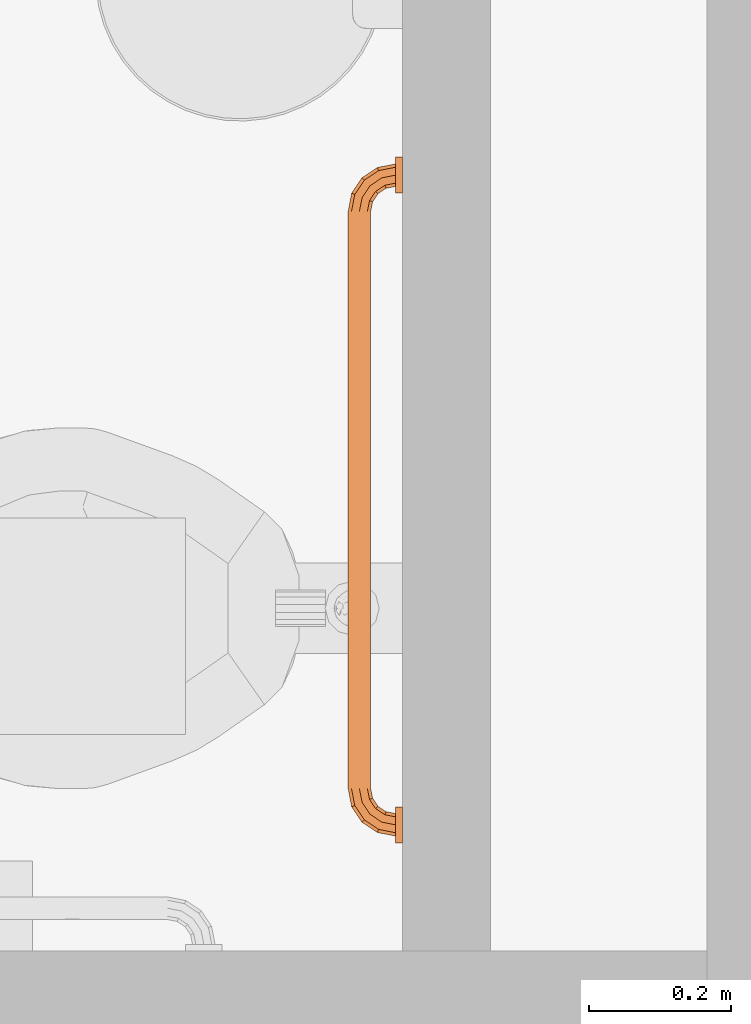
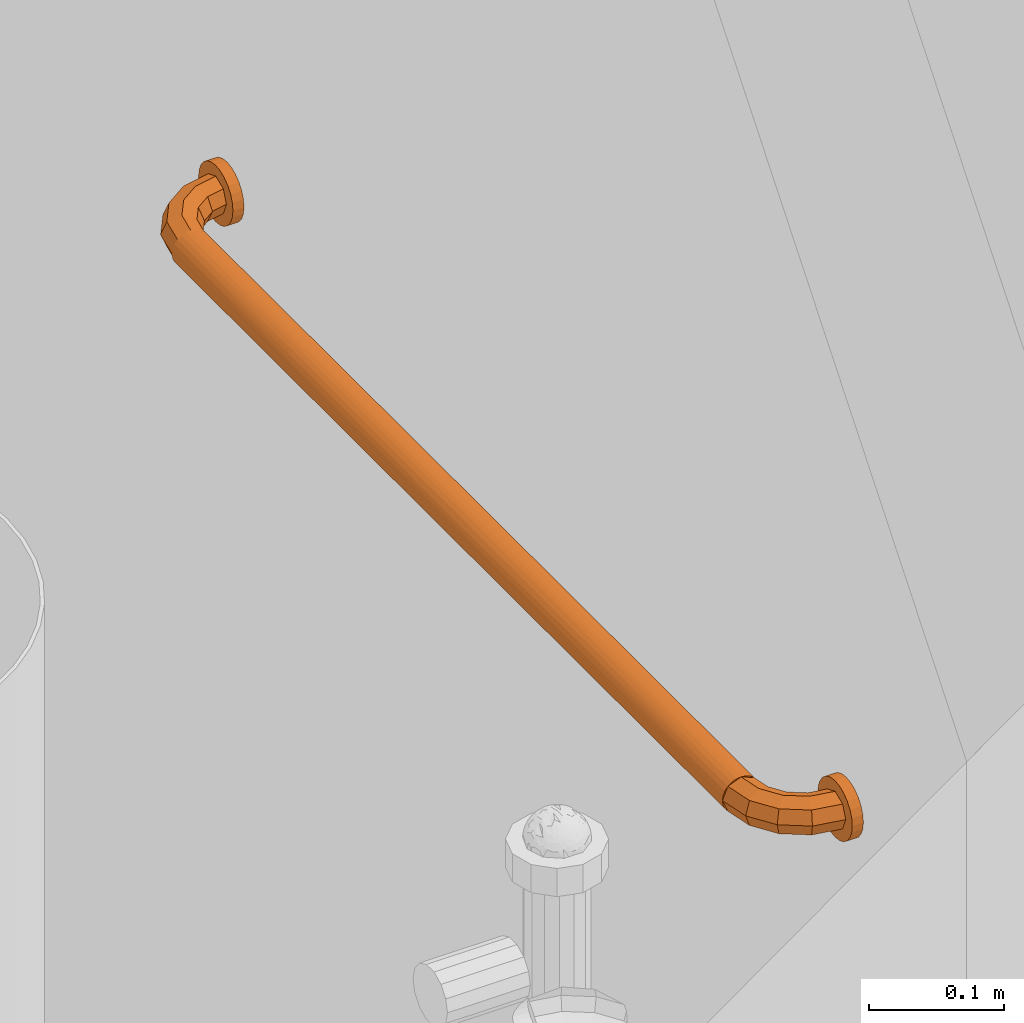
# One storey, part 7 of 7: 1 proxy.
"""IFC2X3 building model written with IfcOpenShell, lengths in feet."""

from ifc_helpers import new_model, entity, si_unit, converted_unit, derived_unit, direction, frame, origin, place, context, subcontext, project, spatial, faceted_brep, source, transform, mapped, type_object, type_shapes, element, save


model = new_model("IFC2X3")

# Units and contexts
model_context = context("Model", 3, precision=0.0001, world=origin(), true_north=direction((6.12303176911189e-17, 1.0)))
body_context = subcontext(model_context, "Body", "Model", "MODEL_VIEW")
ifc_project = project(units=[converted_unit("LENGTHUNIT", "FOOT", entity("IfcRatioMeasure", 0.3048), si_unit("LENGTHUNIT", "METRE"), dimensions=[1, 0, 0, 0, 0, 0, 0]), converted_unit("AREAUNIT", "SQUARE FOOT", entity("IfcRatioMeasure", 0.09290304), si_unit("AREAUNIT", "SQUARE_METRE"), dimensions=[2, 0, 0, 0, 0, 0, 0]), converted_unit("VOLUMEUNIT", "CUBIC FOOT", entity("IfcRatioMeasure", 0.028316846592), si_unit("VOLUMEUNIT", "CUBIC_METRE"), dimensions=[3, 0, 0, 0, 0, 0, 0]), converted_unit("PLANEANGLEUNIT", "DEGREE", entity("IfcRatioMeasure", 0.0174532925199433), si_unit("PLANEANGLEUNIT", "RADIAN"), dimensions=[0, 0, 0, 0, 0, 0, 0]), si_unit("MASSUNIT", "GRAM", prefix="KILO"), derived_unit("MASSDENSITYUNIT", [(si_unit("MASSUNIT", "GRAM", prefix="KILO"), 1), (si_unit("LENGTHUNIT", "METRE"), -3)]), si_unit("TIMEUNIT", "SECOND"), si_unit("FREQUENCYUNIT", "HERTZ"), si_unit("THERMODYNAMICTEMPERATUREUNIT", "DEGREE_CELSIUS"), derived_unit("THERMALTRANSMITTANCEUNIT", [(si_unit("MASSUNIT", "GRAM", prefix="KILO"), 1), (si_unit("THERMODYNAMICTEMPERATUREUNIT", "KELVIN"), -1), (si_unit("TIMEUNIT", "SECOND"), -3)]), derived_unit("VOLUMETRICFLOWRATEUNIT", [(si_unit("LENGTHUNIT", "METRE"), 3), (si_unit("TIMEUNIT", "SECOND"), -1)]), si_unit("ELECTRICCURRENTUNIT", "AMPERE"), si_unit("ELECTRICVOLTAGEUNIT", "VOLT"), si_unit("POWERUNIT", "WATT"), si_unit("FORCEUNIT", "NEWTON"), si_unit("ILLUMINANCEUNIT", "LUX"), si_unit("LUMINOUSFLUXUNIT", "LUMEN"), si_unit("LUMINOUSINTENSITYUNIT", "CANDELA"), derived_unit("USERDEFINED", [(si_unit("MASSUNIT", "GRAM", prefix="KILO"), -1), (si_unit("LENGTHUNIT", "METRE"), -2), (si_unit("TIMEUNIT", "SECOND"), 3), (si_unit("LUMINOUSFLUXUNIT", "LUMEN"), 1)]), derived_unit("LINEARVELOCITYUNIT", [(si_unit("LENGTHUNIT", "METRE"), 1), (si_unit("TIMEUNIT", "SECOND"), -1)]), si_unit("PRESSUREUNIT", "PASCAL"), derived_unit("USERDEFINED", [(si_unit("LENGTHUNIT", "METRE"), -2), (si_unit("MASSUNIT", "GRAM", prefix="KILO"), 1), (si_unit("TIMEUNIT", "SECOND"), -2)])], contexts=[model_context])

# Site, building, storey, space
site_placement = place(None, origin())
site = spatial("IfcSite", under=ifc_project, at=site_placement, Name="Default", CompositionType="ELEMENT")
building_placement = place(site_placement, origin())
building = spatial("IfcBuilding", under=site, at=building_placement, Name="OUTPATIENT / PACT CLINIC (Ch. 265)", CompositionType="ELEMENT")
storey_placement = place(building_placement, origin())
storey = spatial("IfcBuildingStorey", under=building, at=storey_placement, Name="DATUM", CompositionType="ELEMENT", Elevation=0.0)
space_placement = place(storey_placement, origin())
space = spatial("IfcSpace", under=storey, at=space_placement, Name="TNPG1", CompositionType="ELEMENT", InteriorOrExteriorSpace="INTERNAL")

# Proxy
building_element_proxy_type = type_object("IfcBuildingElementProxyType", Name="A5109 - Grab Bar, 1.25 in Dia, SS, 2 Wall, W-C Accessible_Improved", PredefinedType="NOTDEFINED")
shared_shape = source(origin(), body_context, "Body", "Brep", [
    faceted_brep([(0.897113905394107, -0.185229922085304, 0.0520833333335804), (0.883020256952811, -0.151204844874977, 0.0368284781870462), (0.833333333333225, -0.161088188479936, 0.0368284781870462), (0.8333333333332, -0.197916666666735, 0.0520833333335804), (0.877182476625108, -0.137111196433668, 0.0), (0.833333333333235, -0.145833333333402, 0.0), (0.883020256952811, -0.151204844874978, -0.0368284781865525), (0.833333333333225, -0.161088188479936, -0.0368284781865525), (0.897113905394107, -0.185229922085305, -0.0520833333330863), (0.8333333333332, -0.197916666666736, -0.0520833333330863), (0.911207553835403, -0.219254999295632, -0.036828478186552), (0.833333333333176, -0.234745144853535, -0.036828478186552), (0.917045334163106, -0.233348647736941, 0.0), (0.833333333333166, -0.250000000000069, 0.0), (0.911207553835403, -0.219254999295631, 0.0368284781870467), (0.833333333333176, -0.234745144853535, 0.0368284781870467), (0.951184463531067, -0.149101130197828, 0.0520833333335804), (0.925142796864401, -0.123059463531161, 0.0368284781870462), (0.914355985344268, -0.112272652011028, 0.0), (0.925142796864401, -0.123059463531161, -0.0368284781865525), (0.951184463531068, -0.149101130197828, -0.0520833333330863), (0.977226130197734, -0.175142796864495, -0.036828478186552), (0.988012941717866, -0.185929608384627, 0.0), (0.977226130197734, -0.175142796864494, 0.0368284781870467), (0.987313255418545, -0.0950305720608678, 0.0520833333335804), (0.953288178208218, -0.0809369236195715, 0.0368284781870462), (0.939194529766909, -0.0750991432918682, 0.0), (0.953288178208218, -0.0809369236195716, -0.0368284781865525), (0.987313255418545, -0.0950305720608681, -0.0520833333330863), (1.02133833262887, -0.109124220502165, -0.036828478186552), (1.03543198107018, -0.114962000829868, 0.0), (1.02133833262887, -0.109124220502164, 0.0368284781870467), (1.0, -0.0312499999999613, 0.0520833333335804), (0.963171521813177, -0.031249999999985, 0.0368284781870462), (0.947916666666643, -0.0312499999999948, 0.0), (0.963171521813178, -0.031249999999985, -0.0368284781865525), (1.0, -0.0312499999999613, -0.0520833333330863), (1.03682847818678, -0.0312499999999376, -0.036828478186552), (1.05208333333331, -0.0312499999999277, 0.0), (1.03682847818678, -0.0312499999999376, 0.0368284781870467)], [[[0, 1, 2, 3]], [[1, 4, 5, 2]], [[4, 6, 7, 5]], [[6, 8, 9, 7]], [[8, 10, 11, 9]], [[10, 12, 13, 11]], [[12, 14, 15, 13]], [[14, 0, 3, 15]], [[16, 17, 1, 0]], [[17, 18, 4, 1]], [[18, 19, 6, 4]], [[19, 20, 8, 6]], [[20, 21, 10, 8]], [[21, 22, 12, 10]], [[22, 23, 14, 12]], [[23, 16, 0, 14]], [[24, 25, 17, 16]], [[25, 26, 18, 17]], [[26, 27, 19, 18]], [[27, 28, 20, 19]], [[28, 29, 21, 20]], [[29, 30, 22, 21]], [[30, 31, 23, 22]], [[31, 24, 16, 23]], [[32, 33, 25, 24]], [[33, 34, 26, 25]], [[34, 35, 27, 26]], [[35, 36, 28, 27]], [[36, 37, 29, 28]], [[37, 38, 30, 29]], [[38, 39, 31, 30]], [[39, 32, 24, 31]], [[3, 2, 5, 7, 9, 11, 13, 15]], [[39, 38, 37, 36, 35, 34, 33, 32]]]),
    faceted_brep([(0.978431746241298, -0.0312499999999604, -0.0804938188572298), (1.0, -0.0312499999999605, -0.0833333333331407), (1.02156825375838, -0.0312499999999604, -0.0804938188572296), (1.04166666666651, -0.0312499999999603, -0.0721687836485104), (1.05892556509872, -0.0312499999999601, -0.0589255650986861), (1.07216878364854, -0.0312499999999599, -0.0416666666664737), (1.08049381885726, -0.0312499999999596, -0.0215682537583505), (1.08333333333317, -0.0312499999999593, 0.0), (1.08049381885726, -0.031249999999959, 0.0215682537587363), (1.07216878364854, -0.0312499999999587, 0.0416666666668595), (1.05892556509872, -0.0312499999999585, 0.0589255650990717), (1.04166666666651, -0.0312499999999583, 0.0721687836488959), (1.02156825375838, -0.0312499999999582, 0.080493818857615), (1.0, -0.0312499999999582, 0.083333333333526), (0.978431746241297, -0.0312499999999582, 0.080493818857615), (0.958333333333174, -0.0312499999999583, 0.0721687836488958), (0.941074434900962, -0.0312499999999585, 0.0589255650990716), (0.927831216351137, -0.0312499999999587, 0.0416666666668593), (0.919506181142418, -0.031249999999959, 0.021568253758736), (0.916666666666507, -0.0312499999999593, 0.0), (0.919506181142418, -0.0312499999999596, -0.0215682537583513), (0.927831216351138, -0.0312499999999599, -0.0416666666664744), (0.941074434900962, -0.0312499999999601, -0.0589255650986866), (0.958333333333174, -0.0312499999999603, -0.0721687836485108), (1.0, 0.0, 0.0833333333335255), (1.02156825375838, 0.0, 0.0804938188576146), (1.04166666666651, 0.0, 0.0721687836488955), (1.05892556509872, 0.0, 0.0589255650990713), (1.07216878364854, 0.0, 0.0416666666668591), (1.08049381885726, 0.0, 0.0215682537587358), (1.08333333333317, 0.0, 0.0), (1.08049381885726, 0.0, -0.0215682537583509), (1.07216878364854, 0.0, -0.0416666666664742), (1.05892556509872, 0.0, -0.0589255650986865), (1.04166666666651, 0.0, -0.0721687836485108), (1.02156825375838, 0.0, -0.0804938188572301), (1.0, 0.0, -0.0833333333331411), (0.978431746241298, 0.0, -0.0804938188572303), (0.958333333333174, 0.0, -0.0721687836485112), (0.941074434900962, 0.0, -0.0589255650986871), (0.927831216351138, 0.0, -0.0416666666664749), (0.919506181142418, 0.0, -0.0215682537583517), (0.916666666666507, 0.0, 0.0), (0.919506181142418, 0.0, 0.0215682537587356), (0.927831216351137, 0.0, 0.0416666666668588), (0.941074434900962, 0.0, 0.0589255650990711), (0.958333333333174, 0.0, 0.0721687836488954), (0.978431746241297, 0.0, 0.0804938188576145)], [[[0, 1, 2, 3, 4, 5, 6, 7, 8, 9, 10, 11, 12, 13, 14, 15, 16, 17, 18, 19, 20, 21, 22, 23]], [[24, 25, 26, 27, 28, 29, 30, 31, 32, 33, 34, 35, 36, 37, 38, 39, 40, 41, 42, 43, 44, 45, 46, 47]], [[30, 7, 6, 31]], [[31, 6, 5, 32]], [[34, 33, 4, 3]], [[4, 33, 32, 5]], [[35, 34, 3, 2]], [[35, 2, 1, 36]], [[36, 1, 0, 37]], [[37, 0, 23, 38]], [[40, 39, 22, 21]], [[22, 39, 38, 23]], [[41, 40, 21, 20]], [[41, 20, 19, 42]], [[42, 19, 18, 43]], [[43, 18, 17, 44]], [[46, 45, 16, 15]], [[16, 45, 44, 17]], [[47, 46, 15, 14]], [[47, 14, 13, 24]], [[24, 13, 12, 25]], [[25, 12, 11, 26]], [[28, 27, 10, 9]], [[10, 27, 26, 11]], [[29, 28, 9, 8]], [[29, 8, 7, 30]]]),
    faceted_brep([(-1.9873132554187, -0.0950305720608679, 0.052083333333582), (-1.95328817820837, -0.0809369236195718, 0.0368284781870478), (-1.96317152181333, -0.0312499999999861, 0.0368284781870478), (-2.0, -0.0312499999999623, 0.052083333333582), (-1.93919452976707, -0.0750991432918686, 0.0), (-1.9479166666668, -0.0312499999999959, 0.0), (-1.95328817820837, -0.0809369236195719, -0.0368284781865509), (-1.96317152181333, -0.0312499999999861, -0.0368284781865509), (-1.9873132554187, -0.0950305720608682, -0.0520833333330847), (-2.0, -0.0312499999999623, -0.0520833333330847), (-2.02133833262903, -0.109124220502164, -0.0368284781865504), (-2.03682847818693, -0.0312499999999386, -0.0368284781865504), (-2.03543198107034, -0.114962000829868, 0.0), (-2.05208333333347, -0.0312499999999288, 0.0), (-2.02133833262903, -0.109124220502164, 0.0368284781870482), (-2.03682847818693, -0.0312499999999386, 0.0368284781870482), (-1.95118446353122, -0.149101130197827, 0.052083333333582), (-1.92514279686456, -0.123059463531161, 0.0368284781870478), (-1.91435598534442, -0.112272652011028, 0.0), (-1.92514279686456, -0.123059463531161, -0.0368284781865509), (-1.95118446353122, -0.149101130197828, -0.0520833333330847), (-1.97722613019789, -0.175142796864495, -0.0368284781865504), (-1.98801294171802, -0.185929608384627, 0.0), (-1.97722613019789, -0.175142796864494, 0.0368284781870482), (-1.89711390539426, -0.185229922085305, 0.052083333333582), (-1.88302025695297, -0.151204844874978, 0.0368284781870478), (-1.87718247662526, -0.137111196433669, 0.0), (-1.88302025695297, -0.151204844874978, -0.0368284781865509), (-1.89711390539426, -0.185229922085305, -0.0520833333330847), (-1.91120755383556, -0.219254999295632, -0.0368284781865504), (-1.91704533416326, -0.233348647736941, 0.0), (-1.91120755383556, -0.219254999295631, 0.0368284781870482), (-1.83333333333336, -0.197916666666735, 0.052083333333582), (-1.83333333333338, -0.161088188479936, 0.0368284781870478), (-1.83333333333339, -0.145833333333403, 0.0), (-1.83333333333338, -0.161088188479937, -0.0368284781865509), (-1.83333333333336, -0.197916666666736, -0.0520833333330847), (-1.83333333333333, -0.234745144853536, -0.0368284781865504), (-1.83333333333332, -0.250000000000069, 0.0), (-1.83333333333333, -0.234745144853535, 0.0368284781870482)], [[[0, 1, 2, 3]], [[1, 4, 5, 2]], [[4, 6, 7, 5]], [[6, 8, 9, 7]], [[8, 10, 11, 9]], [[10, 12, 13, 11]], [[12, 14, 15, 13]], [[14, 0, 3, 15]], [[16, 17, 1, 0]], [[17, 18, 4, 1]], [[18, 19, 6, 4]], [[19, 20, 8, 6]], [[20, 21, 10, 8]], [[21, 22, 12, 10]], [[22, 23, 14, 12]], [[23, 16, 0, 14]], [[24, 25, 17, 16]], [[25, 26, 18, 17]], [[26, 27, 19, 18]], [[27, 28, 20, 19]], [[28, 29, 21, 20]], [[29, 30, 22, 21]], [[30, 31, 23, 22]], [[31, 24, 16, 23]], [[32, 33, 25, 24]], [[33, 34, 26, 25]], [[34, 35, 27, 26]], [[35, 36, 28, 27]], [[36, 37, 29, 28]], [[37, 38, 30, 29]], [[38, 39, 31, 30]], [[39, 32, 24, 31]], [[3, 2, 5, 7, 9, 11, 13, 15]], [[39, 38, 37, 36, 35, 34, 33, 32]]]),
    faceted_brep([(-1.95833333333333, -0.0312499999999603, -0.0721687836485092), (-1.94107443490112, -0.0312499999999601, -0.058925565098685), (-1.92783121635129, -0.0312499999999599, -0.0416666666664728), (-1.91950618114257, -0.0312499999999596, -0.0215682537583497), (-1.91666666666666, -0.0312499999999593, 0.0), (-1.91950618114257, -0.031249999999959, 0.0215682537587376), (-1.92783121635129, -0.0312499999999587, 0.0416666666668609), (-1.94107443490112, -0.0312499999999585, 0.0589255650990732), (-1.95833333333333, -0.0312499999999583, 0.0721687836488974), (-1.97843174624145, -0.0312499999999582, 0.0804938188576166), (-2.0, -0.0312499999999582, 0.0833333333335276), (-2.02156825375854, -0.0312499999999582, 0.0804938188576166), (-2.04166666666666, -0.0312499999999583, 0.0721687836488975), (-2.05892556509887, -0.0312499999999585, 0.0589255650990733), (-2.0721687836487, -0.0312499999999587, 0.0416666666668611), (-2.08049381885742, -0.031249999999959, 0.0215682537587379), (-2.08333333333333, -0.0312499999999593, 0.0), (-2.08049381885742, -0.0312499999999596, -0.0215682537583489), (-2.0721687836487, -0.0312499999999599, -0.0416666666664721), (-2.05892556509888, -0.0312499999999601, -0.0589255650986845), (-2.04166666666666, -0.0312499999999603, -0.0721687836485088), (-2.02156825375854, -0.0312499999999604, -0.080493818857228), (-2.0, -0.0312499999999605, -0.0833333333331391), (-1.97843174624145, -0.0312499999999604, -0.0804938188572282), (-1.97843174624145, 0.0, 0.0804938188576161), (-1.95833333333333, 0.0, 0.072168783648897), (-1.94107443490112, 0.0, 0.0589255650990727), (-1.92783121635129, 0.0, 0.0416666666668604), (-1.91950618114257, 0.0, 0.0215682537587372), (-1.91666666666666, 0.0, 0.0), (-1.91950618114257, 0.0, -0.0215682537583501), (-1.92783121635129, 0.0, -0.0416666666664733), (-1.94107443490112, 0.0, -0.0589255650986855), (-1.95833333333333, 0.0, -0.0721687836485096), (-1.97843174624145, 0.0, -0.0804938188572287), (-2.0, 0.0, -0.0833333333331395), (-2.02156825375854, 0.0, -0.0804938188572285), (-2.04166666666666, 0.0, -0.0721687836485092), (-2.05892556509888, 0.0, -0.0589255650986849), (-2.0721687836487, 0.0, -0.0416666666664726), (-2.08049381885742, 0.0, -0.0215682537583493), (-2.08333333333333, 0.0, 0.0), (-2.08049381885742, 0.0, 0.0215682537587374), (-2.0721687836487, 0.0, 0.0416666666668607), (-2.05892556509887, 0.0, 0.0589255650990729), (-2.04166666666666, 0.0, 0.0721687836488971), (-2.02156825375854, 0.0, 0.0804938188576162), (-2.0, 0.0, 0.0833333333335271)], [[[0, 1, 2, 3, 4, 5, 6, 7, 8, 9, 10, 11, 12, 13, 14, 15, 16, 17, 18, 19, 20, 21, 22, 23]], [[24, 25, 26, 27, 28, 29, 30, 31, 32, 33, 34, 35, 36, 37, 38, 39, 40, 41, 42, 43, 44, 45, 46, 47]], [[40, 17, 16, 41]], [[39, 18, 17, 40]], [[20, 19, 38, 37]], [[39, 38, 19, 18]], [[21, 20, 37, 36]], [[22, 21, 36, 35]], [[34, 23, 22, 35]], [[33, 0, 23, 34]], [[2, 1, 32, 31]], [[33, 32, 1, 0]], [[3, 2, 31, 30]], [[4, 3, 30, 29]], [[28, 5, 4, 29]], [[27, 6, 5, 28]], [[8, 7, 26, 25]], [[27, 26, 7, 6]], [[9, 8, 25, 24]], [[10, 9, 24, 47]], [[46, 11, 10, 47]], [[45, 12, 11, 46]], [[14, 13, 44, 43]], [[45, 44, 13, 12]], [[15, 14, 43, 42]], [[16, 15, 42, 41]]]),
    faceted_brep([(0.833333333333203, -0.147608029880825, 0.0134801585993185), (0.833333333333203, -0.152811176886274, 0.0260416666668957), (0.833333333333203, -0.161088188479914, 0.0368284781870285), (0.833333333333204, -0.171875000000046, 0.0451054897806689), (0.833333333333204, -0.184436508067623, 0.0503086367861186), (0.833333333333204, -0.197916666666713, 0.0520833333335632), (0.833333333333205, -0.211396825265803, 0.050308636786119), (0.833333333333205, -0.22395833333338, 0.0451054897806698), (0.833333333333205, -0.234745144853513, 0.0368284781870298), (0.833333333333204, -0.243022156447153, 0.0260416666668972), (0.833333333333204, -0.248225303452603, 0.0134801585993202), (0.833333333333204, -0.250000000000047, 0.0), (0.833333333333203, -0.248225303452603, -0.013480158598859), (0.833333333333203, -0.243022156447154, -0.0260416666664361), (0.833333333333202, -0.234745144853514, -0.0368284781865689), (0.833333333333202, -0.223958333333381, -0.0451054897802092), (0.833333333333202, -0.211396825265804, -0.0503086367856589), (0.833333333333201, -0.197916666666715, -0.0520833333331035), (0.833333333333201, -0.184436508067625, -0.0503086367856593), (0.833333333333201, -0.171875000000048, -0.0451054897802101), (0.833333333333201, -0.161088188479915, -0.0368284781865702), (0.833333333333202, -0.152811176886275, -0.0260416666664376), (0.833333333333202, -0.147608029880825, -0.0134801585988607), (0.833333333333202, -0.14583333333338, 0.0), (-1.83333333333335, -0.248225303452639, 0.0134801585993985), (-1.83333333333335, -0.24302215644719, 0.0260416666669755), (-1.83333333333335, -0.23474514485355, 0.036828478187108), (-1.83333333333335, -0.223958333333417, 0.0451054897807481), (-1.83333333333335, -0.21139682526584, 0.0503086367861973), (-1.83333333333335, -0.19791666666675, 0.0520833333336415), (-1.83333333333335, -0.18443650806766, 0.0503086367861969), (-1.83333333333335, -0.171875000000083, 0.0451054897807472), (-1.83333333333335, -0.161088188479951, 0.0368284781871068), (-1.83333333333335, -0.152811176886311, 0.026041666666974), (-1.83333333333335, -0.147608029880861, 0.0134801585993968), (-1.83333333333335, -0.145833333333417, 0.0), (-1.83333333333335, -0.147608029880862, -0.0134801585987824), (-1.83333333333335, -0.152811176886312, -0.0260416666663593), (-1.83333333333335, -0.161088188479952, -0.0368284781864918), (-1.83333333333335, -0.171875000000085, -0.0451054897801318), (-1.83333333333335, -0.184436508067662, -0.050308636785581), (-1.83333333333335, -0.197916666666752, -0.0520833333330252), (-1.83333333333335, -0.211396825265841, -0.0503086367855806), (-1.83333333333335, -0.223958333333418, -0.0451054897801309), (-1.83333333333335, -0.234745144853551, -0.0368284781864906), (-1.83333333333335, -0.243022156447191, -0.0260416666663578), (-1.83333333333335, -0.24822530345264, -0.0134801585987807), (-1.83333333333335, -0.250000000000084, 0.0), (0.213018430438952, -0.166210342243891, 0.0413204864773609), (0.027611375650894, -0.177985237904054, 0.0481187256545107), (0.223932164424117, -0.149797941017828, 0.0199314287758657), (0.0276113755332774, -0.156596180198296, 0.0317063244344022), (-0.500000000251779, -0.154851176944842, -0.0292922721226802), (-1.2130184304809, -0.14979794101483, -0.0199314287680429), (-0.500000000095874, -0.149797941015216, -0.0199314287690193), (0.213018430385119, -0.14979794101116, -0.0199314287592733), (0.21301843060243, -0.166210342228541, -0.0413204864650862), (0.0276113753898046, -0.177985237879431, -0.0481187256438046), (0.273230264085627, -0.187922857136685, -0.0511155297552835), (-0.38666469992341, -0.187504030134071, -0.0510318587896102), (-1.21301843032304, -0.166210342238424, -0.0413204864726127), (-1.02761137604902, -0.156596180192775, -0.0317063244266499), (-0.49999999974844, -0.166210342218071, -0.0413204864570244), (0.027611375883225, -0.15659618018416, -0.0317063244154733), (-1.02761137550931, -0.146278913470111, -0.00679823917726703), (-0.500000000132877, -0.146752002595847, -0.00973913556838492), (-1.02761137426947, -0.177985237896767, -0.0481187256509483), (-0.499999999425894, -0.177964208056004, -0.0481100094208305), (-1.02761137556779, -0.156596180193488, 0.0317063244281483), (-0.00759092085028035, -0.197916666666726, -0.0520833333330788), (-0.992407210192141, -0.197916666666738, 0.0520833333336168), (-1.27323026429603, -0.18792285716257, 0.0511155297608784), (0.200359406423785, -0.146278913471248, 0.00679823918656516), (0.0276113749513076, -0.146278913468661, -0.00679823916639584), (-0.49999999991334, -0.154851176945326, 0.0292922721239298), (-0.500000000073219, -0.149797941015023, 0.0199314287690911), (-1.22393216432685, -0.149797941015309, 0.0199314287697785), (-1.20035940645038, -0.146278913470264, 0.00679823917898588), (-1.21301843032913, -0.166210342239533, 0.041320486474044), (-1.02761137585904, -0.177985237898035, 0.0481187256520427), (-0.499999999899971, -0.166210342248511, 0.0413204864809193), (-0.50000000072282, -0.145915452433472, 0.00292358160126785), (0.264201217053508, -0.188316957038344, 0.051191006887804), (-1.26420121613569, -0.188316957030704, -0.0511910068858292), (-0.50000000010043, -0.177964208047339, 0.0481100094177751), (-0.613335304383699, -0.187504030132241, 0.0510318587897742), (-0.0795375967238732, -0.197916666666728, -0.0520833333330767), (-0.920460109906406, -0.197916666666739, -0.052083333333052), (-0.920474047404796, -0.197916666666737, 0.0520833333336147), (-0.0795369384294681, -0.197916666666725, 0.05208333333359), (-0.992408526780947, -0.19791666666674, -0.0520833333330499), (-0.00758275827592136, -0.197916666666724, 0.0520833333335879), (0.213018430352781, -0.229622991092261, -0.0413204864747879), (0.0276113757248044, -0.217848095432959, -0.0481187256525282), (0.223932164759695, -0.24603539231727, -0.0199314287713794), (0.0276113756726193, -0.239237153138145, -0.0317063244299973), (-0.50000000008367, -0.240982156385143, 0.0292922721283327), (-1.21301843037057, -0.246035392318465, 0.0199314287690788), (-0.500000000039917, -0.246035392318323, 0.0199314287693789), (0.213018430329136, -0.246035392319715, 0.0199314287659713), (0.213018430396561, -0.229622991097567, 0.0413204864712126), (0.0276113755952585, -0.217848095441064, 0.0481187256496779), (0.273230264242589, -0.207910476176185, 0.0511155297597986), (-0.386664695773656, -0.208329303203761, 0.0510318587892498), (-1.21301843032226, -0.229622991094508, 0.0413204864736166), (-1.02761137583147, -0.239237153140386, 0.0317063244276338), (-0.49999999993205, -0.229622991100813, 0.0413204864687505), (0.0276113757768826, -0.239237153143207, 0.0317063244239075), (-1.02761137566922, -0.249554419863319, 0.00679823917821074), (-0.500000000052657, -0.249081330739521, 0.00973913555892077), (-1.02761137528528, -0.217848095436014, 0.0481187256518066), (-0.499999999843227, -0.217869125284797, 0.0481100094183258), (-1.0276113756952, -0.239237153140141, -0.0317063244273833), (-1.27323026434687, -0.207910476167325, -0.0511155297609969), (0.200359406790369, -0.249554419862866, -0.0067982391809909), (0.0276113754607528, -0.249554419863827, 0.00679823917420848), (-0.499999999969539, -0.240982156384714, -0.0292922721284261), (-0.500000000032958, -0.246035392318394, -0.0199314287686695), (-1.22393216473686, -0.246035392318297, -0.0199314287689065), (-1.20035940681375, -0.249554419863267, -0.00679823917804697), (-1.21301843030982, -0.229622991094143, -0.0413204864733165), (-1.02761137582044, -0.217848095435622, -0.0481187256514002), (-0.499999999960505, -0.229622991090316, -0.041320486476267), (-0.500000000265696, -0.249917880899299, -0.00292358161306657), (0.264201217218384, -0.207516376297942, -0.0511910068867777), (-1.26420121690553, -0.207516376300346, 0.0511910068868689), (-0.500000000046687, -0.217869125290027, -0.048110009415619), (-0.613335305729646, -0.20832930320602, -0.0510318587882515)], [[[0, 1, 2, 3, 4, 5, 6, 7, 8, 9, 10, 11, 12, 13, 14, 15, 16, 17, 18, 19, 20, 21, 22, 23]], [[24, 25, 26, 27, 28, 29, 30, 31, 32, 33, 34, 35, 36, 37, 38, 39, 40, 41, 42, 43, 44, 45, 46, 47]], [[48, 49, 3]], [[50, 51, 1]], [[52, 53, 54, 55]], [[56, 20, 19]], [[53, 37, 36]], [[57, 58, 59]], [[18, 58, 57]], [[60, 61, 62]], [[63, 56, 62]], [[53, 61, 37]], [[64, 65, 53]], [[66, 40, 39]], [[36, 35, 64]], [[66, 67, 59]], [[38, 60, 39]], [[33, 32, 68]], [[17, 69, 58]], [[70, 71, 29]], [[62, 56, 57]], [[66, 60, 62]], [[52, 55, 63]], [[72, 23, 73]], [[22, 21, 55]], [[63, 21, 20]], [[55, 73, 22]], [[74, 50, 75, 76]], [[34, 76, 77]], [[78, 68, 32]], [[52, 62, 61]], [[18, 57, 19]], [[78, 79, 80]], [[49, 48, 80]], [[64, 77, 81]], [[53, 65, 55, 54]], [[78, 32, 31]], [[56, 63, 20]], [[49, 4, 3]], [[23, 22, 73]], [[72, 50, 0]], [[1, 51, 2]], [[38, 37, 61]], [[60, 66, 39]], [[80, 48, 51]], [[68, 78, 80]], [[5, 4, 82]], [[68, 74, 76]], [[3, 2, 48]], [[41, 40, 83]], [[77, 35, 34]], [[31, 30, 79]], [[0, 23, 72]], [[35, 77, 64]], [[74, 80, 51]], [[49, 84, 85]], [[30, 71, 79]], [[79, 71, 85]], [[59, 67, 57]], [[83, 40, 66]], [[85, 84, 79]], [[82, 4, 49]], [[76, 34, 33]], [[75, 72, 81]], [[73, 65, 81]], [[0, 50, 1]], [[64, 53, 36]], [[63, 55, 21]], [[57, 56, 19]], [[61, 60, 38]], [[51, 48, 2]], [[79, 78, 31]], [[68, 76, 33]], [[75, 77, 76]], [[72, 75, 50]], [[75, 81, 77]], [[72, 73, 81]], [[81, 65, 64]], [[55, 65, 73]], [[17, 58, 18]], [[59, 58, 69]], [[59, 69, 86, 87]], [[59, 87, 83]], [[66, 62, 67]], [[62, 57, 67]], [[62, 52, 63]], [[53, 52, 61]], [[80, 74, 68]], [[50, 74, 51]], [[29, 71, 30]], [[85, 71, 70]], [[85, 70, 88, 89]], [[85, 89, 82]], [[49, 80, 84]], [[80, 79, 84]], [[59, 83, 66]], [[83, 87, 90, 41]], [[85, 82, 49]], [[82, 89, 91, 5]], [[92, 93, 15]], [[94, 95, 13]], [[96, 97, 98, 99]], [[100, 8, 7]], [[97, 25, 24]], [[101, 102, 103]], [[6, 102, 101]], [[104, 105, 106]], [[107, 100, 106]], [[97, 105, 25]], [[108, 109, 97]], [[110, 28, 27]], [[24, 47, 108]], [[110, 111, 103]], [[26, 104, 27]], [[45, 44, 112]], [[5, 91, 102]], [[90, 113, 41]], [[106, 100, 101]], [[110, 104, 106]], [[96, 99, 107]], [[114, 11, 115]], [[10, 9, 99]], [[107, 9, 8]], [[99, 115, 10]], [[116, 94, 117, 118]], [[46, 118, 119]], [[120, 112, 44]], [[96, 106, 105]], [[6, 101, 7]], [[120, 121, 122]], [[93, 92, 122]], [[108, 119, 123]], [[97, 109, 99, 98]], [[120, 44, 43]], [[100, 107, 8]], [[93, 16, 15]], [[11, 10, 115]], [[114, 94, 12]], [[13, 95, 14]], [[26, 25, 105]], [[104, 110, 27]], [[122, 92, 95]], [[112, 120, 122]], [[17, 16, 124]], [[112, 116, 118]], [[15, 14, 92]], [[29, 28, 125]], [[119, 47, 46]], [[43, 42, 121]], [[12, 11, 114]], [[47, 119, 108]], [[116, 122, 95]], [[93, 126, 127]], [[42, 113, 121]], [[121, 113, 127]], [[103, 111, 101]], [[125, 28, 110]], [[127, 126, 121]], [[124, 16, 93]], [[118, 46, 45]], [[117, 114, 123]], [[115, 109, 123]], [[12, 94, 13]], [[108, 97, 24]], [[107, 99, 9]], [[101, 100, 7]], [[105, 104, 26]], [[95, 92, 14]], [[121, 120, 43]], [[112, 118, 45]], [[117, 119, 118]], [[114, 117, 94]], [[117, 123, 119]], [[114, 115, 123]], [[123, 109, 108]], [[99, 109, 115]], [[5, 102, 6]], [[103, 102, 91]], [[103, 91, 89, 88]], [[103, 88, 125]], [[110, 106, 111]], [[106, 101, 111]], [[106, 96, 107]], [[97, 96, 105]], [[122, 116, 112]], [[94, 116, 95]], [[41, 113, 42]], [[127, 113, 90]], [[127, 90, 87, 86]], [[127, 86, 124]], [[93, 122, 126]], [[122, 121, 126]], [[103, 125, 110]], [[125, 88, 70, 29]], [[127, 124, 93]], [[124, 86, 69, 17]]]),
])
type_shapes(building_element_proxy_type, [shared_shape])
proxy_placement = place(space_placement, frame((105.393588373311, -859.575323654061, 3.0), z_axis=(0.0, 0.0, 1.0), x_axis=(0.0, -1.0, 0.0)))
element("IfcBuildingElementProxy", 1, at=proxy_placement, inside=space, type_object=building_element_proxy_type, Name="A5109 - Grab Bar, 1.25 in Dia, SS, 2 Wall, W-C Accessible_Improved:A5109 - Grab Bar, 1.25 in Dia, SS, 2 Wall, W-C Accessible_Improved", ObjectType="A5109 - Grab Bar, 1.25 in Dia, SS, 2 Wall, W-C Accessible_Improved", context=body_context, shape_type="MappedRepresentation", body=[
    mapped(shared_shape, transform((0.0, 0.0, 0.0), scale=1.0)),
])

save(model, "model.ifc")
